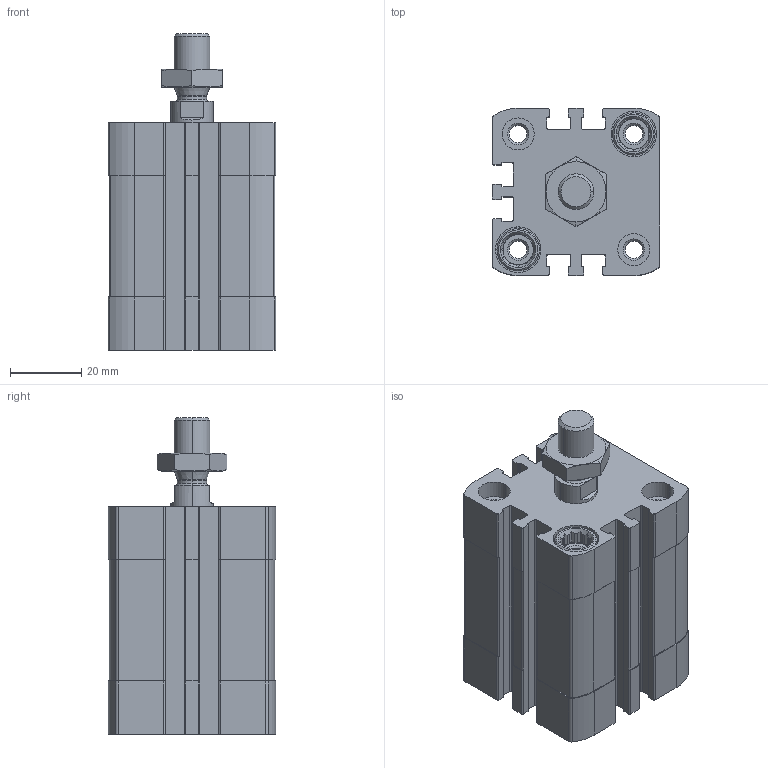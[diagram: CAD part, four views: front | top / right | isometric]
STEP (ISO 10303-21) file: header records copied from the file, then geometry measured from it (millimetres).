
FILE_DESCRIPTION (( 'STEP AP203' ), '1' );
FILE_NAME ('CCN32-20M.STEP', '2017-03-29T13:07:41', ( '' ), ( '' ), 'SwSTEP 2.0', 'SolidWorks 2016', '' );
FILE_SCHEMA (( 'CONFIG_CONTROL_DESIGN' ));
Length unit declared in the file: millimetre
Products named in the file (4): CCN32-20M; CCN-20---(Z); CCN-20_(KS); _DIN-439-B - M10x1.25(F)
Assembly tree (3 placements, depth 2):
  CCN32-20M
    CCN-20---(Z)
    CCN-20_(KS)
    _DIN-439-B - M10x1.25(F)
Bounding box: 47 x 47 x 89 mm (x, y, z)
Volume: 104337.7 mm3; surface area: 38494.7 mm2
Topology: 3 solids, 3 shells, 499 faces, 1338 edges, 876 vertices
Faces by surface type: plane 275, cylinder 172, cone 48, bspline 4
Entity records: 16286 total; most frequent: CARTESIAN_POINT 3127, DIRECTION 2728, ORIENTED_EDGE 2676, EDGE_CURVE 1338, AXIS2_PLACEMENT_3D 1001, VERTEX_POINT 876, LINE 726, VECTOR 726
